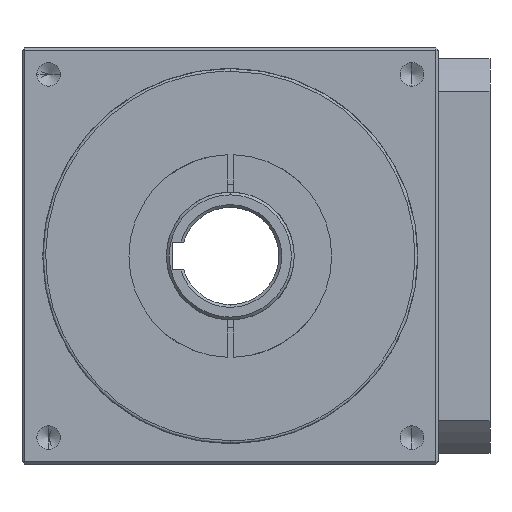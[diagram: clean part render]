
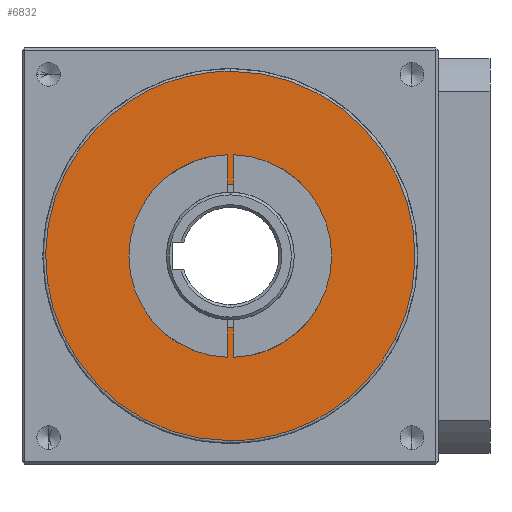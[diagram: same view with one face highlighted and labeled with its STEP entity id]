
A CAD part, left-side view. The second image highlights one B-rep face of the part: STEP entity #6832.
In plain terms, the highlighted planar face has unit normal (-1, 0, 0).
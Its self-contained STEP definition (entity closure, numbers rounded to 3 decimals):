
#141 = CARTESIAN_POINT ( 'NONE',  ( -95., 0., -66.5 ) ) ;
#152 = CARTESIAN_POINT ( 'NONE',  ( -95., -133., -66.5 ) ) ;
#173 = CARTESIAN_POINT ( 'NONE',  ( -95., -133., 66.5 ) ) ;
#183 = CARTESIAN_POINT ( 'NONE',  ( -95., 0., 66.5 ) ) ;
#560 = ORIENTED_EDGE ( 'NONE', *, *, #4614, .F. ) ;
#660 = EDGE_LOOP ( 'NONE', ( #5498, #6598 ) ) ;
#1258 = ORIENTED_EDGE ( 'NONE', *, *, #4932, .F. ) ;
#1687 = CARTESIAN_POINT ( 'NONE',  ( -95., 0., 66.5 ) ) ;
#1696 = CARTESIAN_POINT ( 'NONE',  ( -95., 133., 66.5 ) ) ;
#1734 = CARTESIAN_POINT ( 'NONE',  ( -95., 133., -66.5 ) ) ;
#1774 = CARTESIAN_POINT ( 'NONE',  ( -95., 0., -66.5 ) ) ;
#1882 = AXIS2_PLACEMENT_3D ( 'NONE', #2405, #2404, #2397 ) ;
#1941 = FACE_OUTER_BOUND ( 'NONE', #3906, .T. ) ;
#2209 = VERTEX_POINT ( 'NONE', #2445 ) ;
#2336 = DIRECTION ( 'NONE',  ( 0., 0., -1. ) ) ;
#2343 = DIRECTION ( 'NONE',  ( 1., 0., 0. ) ) ;
#2347 = CARTESIAN_POINT ( 'NONE',  ( -95., 0., 0. ) ) ;
#2397 = DIRECTION ( 'NONE',  ( 0., 0., -1. ) ) ;
#2404 = DIRECTION ( 'NONE',  ( 1., 0., 0. ) ) ;
#2405 = CARTESIAN_POINT ( 'NONE',  ( -95., 0., 0. ) ) ;
#2445 = CARTESIAN_POINT ( 'NONE',  ( -95., 0., 25.75 ) ) ;
#2814 = VERTEX_POINT ( 'NONE', #2968 ) ;
#2968 = CARTESIAN_POINT ( 'NONE',  ( -95., 0., 66.5 ) ) ;
#3628 = FACE_BOUND ( 'NONE', #660, .T. ) ;
#3906 = EDGE_LOOP ( 'NONE', ( #560, #1258 ) ) ;
#4186 = CIRCLE ( 'NONE', #1882, 25.75 ) ;
#4420 = EDGE_CURVE ( 'NONE', #6813, #2209, #4186, .T. ) ;
#4569 = AXIS2_PLACEMENT_3D ( 'NONE', #2347, #2343, #2336 ) ;
#4614 = EDGE_CURVE ( 'NONE', #6736, #2814, #8073, .T. ) ;
#4932 = EDGE_CURVE ( 'NONE', #2814, #6736, #8144, .T. ) ;
#5498 = ORIENTED_EDGE ( 'NONE', *, *, #4420, .T. ) ;
#6598 = ORIENTED_EDGE ( 'NONE', *, *, #8760, .T. ) ;
#6701 = CIRCLE ( 'NONE', #4569, 25.75 ) ;
#6736 = VERTEX_POINT ( 'NONE', #7333 ) ;
#6813 = VERTEX_POINT ( 'NONE', #7575 ) ;
#6832 = ADVANCED_FACE ( 'NONE', ( #3628, #1941 ), #7697, .T. ) ;
#7333 = CARTESIAN_POINT ( 'NONE',  ( -95., 0., -66.5 ) ) ;
#7575 = CARTESIAN_POINT ( 'NONE',  ( -95., 0., -25.75 ) ) ;
#7697 = PLANE ( 'NONE',  #8730 ) ;
#7896 = CARTESIAN_POINT ( 'NONE',  ( -95., -67.298, -67.298 ) ) ;
#7905 = DIRECTION ( 'NONE',  ( -1., 0., 0. ) ) ;
#7917 = DIRECTION ( 'NONE',  ( 0., 0., 1. ) ) ;
#8073 =( BOUNDED_CURVE ( )  B_SPLINE_CURVE ( 3, ( #1774, #1734, #1696, #1687 ),
 .UNSPECIFIED., .F., .T. ) 
 B_SPLINE_CURVE_WITH_KNOTS ( ( 4, 4 ),
 ( 0., 1. ),
 .UNSPECIFIED. ) 
 CURVE ( )  GEOMETRIC_REPRESENTATION_ITEM ( )  RATIONAL_B_SPLINE_CURVE ( ( 0.957, 0.319, 0.319, 0.957 ) ) 
 REPRESENTATION_ITEM ( '' )  );
#8144 =( BOUNDED_CURVE ( )  B_SPLINE_CURVE ( 3, ( #183, #173, #152, #141 ),
 .UNSPECIFIED., .F., .T. ) 
 B_SPLINE_CURVE_WITH_KNOTS ( ( 4, 4 ),
 ( 0., 1. ),
 .UNSPECIFIED. ) 
 CURVE ( )  GEOMETRIC_REPRESENTATION_ITEM ( )  RATIONAL_B_SPLINE_CURVE ( ( 0.957, 0.319, 0.319, 0.957 ) ) 
 REPRESENTATION_ITEM ( '' )  );
#8730 = AXIS2_PLACEMENT_3D ( 'NONE', #7896, #7905, #7917 ) ;
#8760 = EDGE_CURVE ( 'NONE', #2209, #6813, #6701, .T. ) ;
